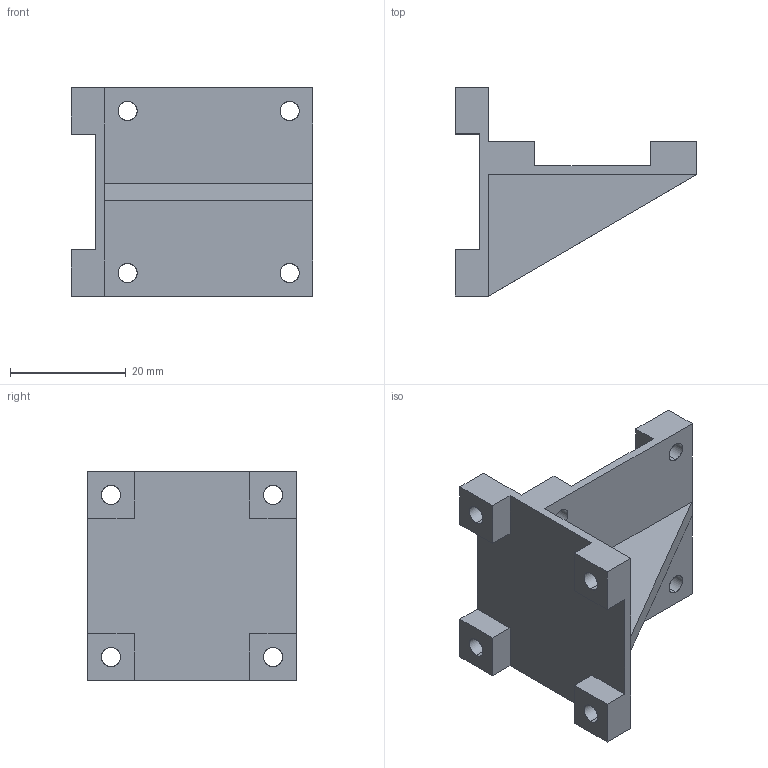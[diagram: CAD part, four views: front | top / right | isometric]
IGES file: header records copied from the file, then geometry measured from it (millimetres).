
Start section: SolidWorks IGES file using analytic representation for surfaces
Global section: file name: C:\Documents and Settings\CAD53\デスクトップ\IGES\N01911-203-0.IGS; native system: SolidWorks 2005 by SolidWorks Corporation; preprocessor: SolidWorks 2005 by SolidWorks Corporation; author: CAD53; date: 070530.084039; units: millimetre
Bounding box: 41.75 x 36 x 36 mm (x, y, z)
Surface area: 7510.1 mm2 (no closed solid volume)
Topology: 0 solids, 0 shells, 55 faces, 790 edges, 790 vertices
Faces by surface type: bspline 39, revolution 16
